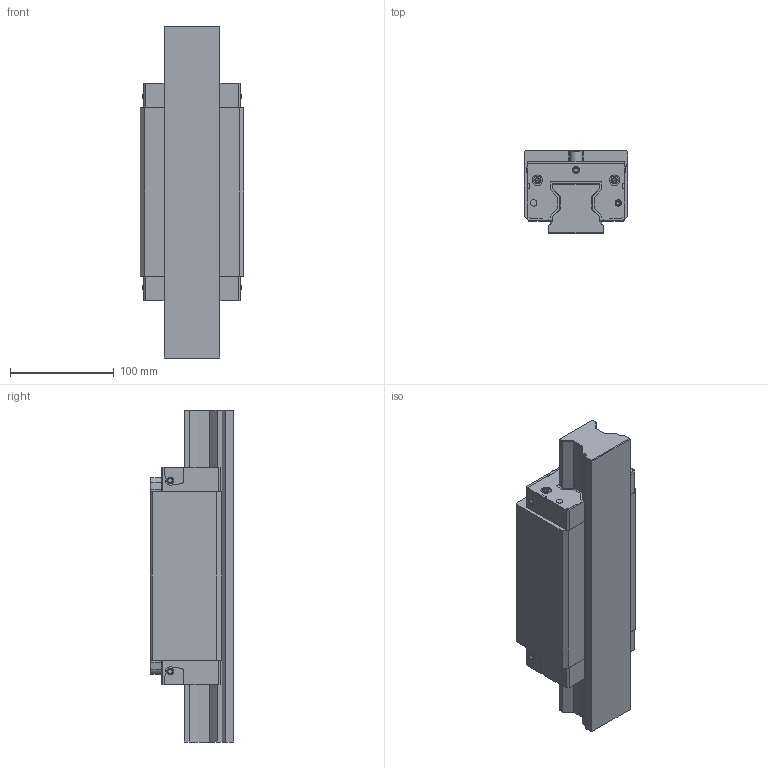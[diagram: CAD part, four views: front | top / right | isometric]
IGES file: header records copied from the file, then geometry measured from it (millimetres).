
Start section: 3D InterOp IGES (v. 2019 1.0.2), Spatial Corp. Copyright (c) 1999-2017.
Global section: file name: R1824_size55.igs; native system: Spatial Corp.; preprocessor: 3D InterOp GENERIC/IGES 3.0; author: Noname; organization: Noname; date: 20220630.112911; units: millimetre
Bounding box: 100 x 80 x 319.65 mm (x, y, z)
Surface area: 224369.4 mm2 (no closed solid volume)
Topology: 0 solids, 0 shells, 540 faces, 2888 edges, 2852 vertices
Faces by surface type: extrusion 328, revolution 212
